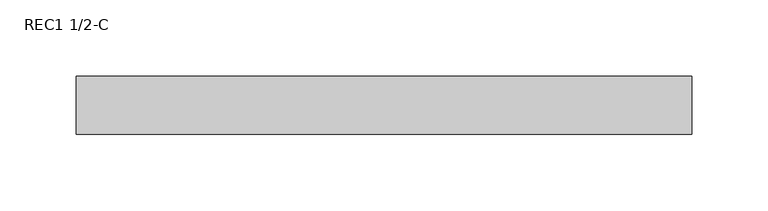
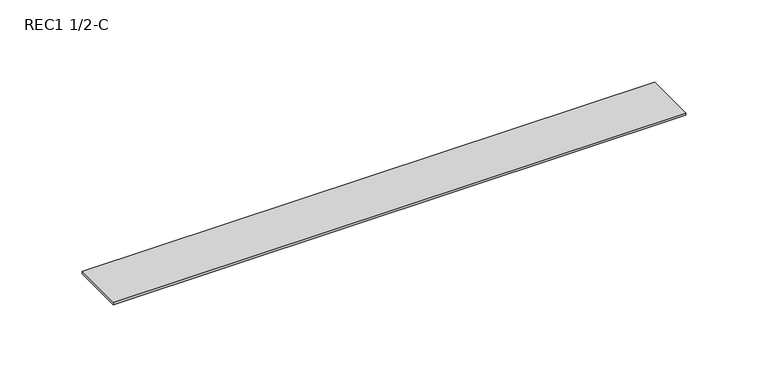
"""IFC4 building model written with IfcOpenShell, lengths in millimetres: proxy geometry, End_Closure-Walkercell-Wiremold-Conduit : REC1 1/2-C."""

from ifc_helpers import new_model, si_unit, origin, origin_with_axes, place, context, project, spatial, polyline, outline, extrude, source, transform, mapped, element, save


def rec1_1_2_c_dd8a51ac(model_context):
    return source(origin(), model_context, "Body", "SweptSolid", [
        extrude(outline(polyline([(201.6125, 19.05), (201.6125, -19.05), (-201.6125, -19.05), (-201.6125, 19.05), (201.6125, 19.05)])), origin_with_axes(), (0.0, 0.0, 1.0), 1.778),
    ])


if __name__ == "__main__":
    model = new_model("IFC4")
    model_context = context("Model", 3, world=origin())
    ifc_project = project(units=[si_unit("LENGTHUNIT", "METRE", prefix="MILLI")], contexts=[model_context])
    site = spatial("IfcSite", under=ifc_project)
    building = spatial("IfcBuilding", under=site)
    placement = place(None, origin())
    rec1_1_2_c_shape = rec1_1_2_c_dd8a51ac(model_context)
    element("IfcBuildingElementProxy", 1, Name="End_Closure-Walkercell-Wiremold-Conduit : REC1 1/2-C", ObjectType="End_Closure-Walkercell-Wiremold-Conduit : REC1 1/2-C", at=placement, inside=building, context=model_context, shape_type="MappedRepresentation", body=[
        mapped(rec1_1_2_c_shape, transform((0.0, 0.0, 0.0), x_axis=(1.0, 0.0, 0.0), y_axis=(0.0, 1.0, 0.0), z_axis=(0.0, 0.0, 1.0))),
    ])
    save(model, "model.ifc")
